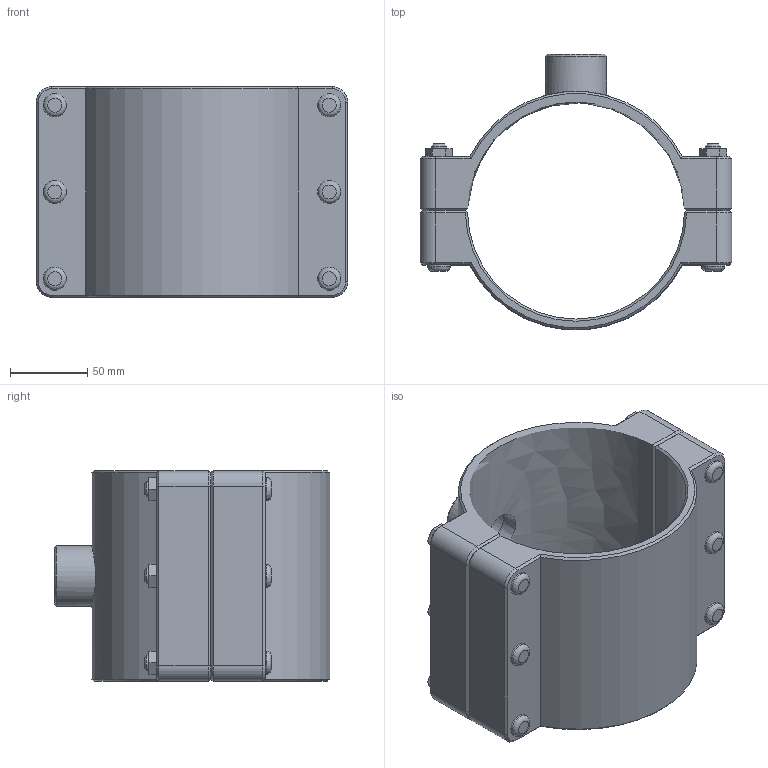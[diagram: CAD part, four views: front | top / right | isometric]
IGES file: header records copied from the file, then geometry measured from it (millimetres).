
Global section: file name: 160760140010_160860140010.ipt; native system: Autodesk Inventor 2015; preprocessor: unknown; author: KIM; date: 20170618.093556; units: millimetre
Bounding box: 201 x 177.72 x 136 mm (x, y, z)
Volume: 949630.2 mm3; surface area: 173701.7 mm2
Topology: 1 solids, 1 shells, 169 faces, 394 edges, 249 vertices
Faces by surface type: plane 100, cylinder 29, cone 27, revolution 13
Full cylindrical faces by diameter (mm): 10 x6, 15 x12, 39.378 x1
